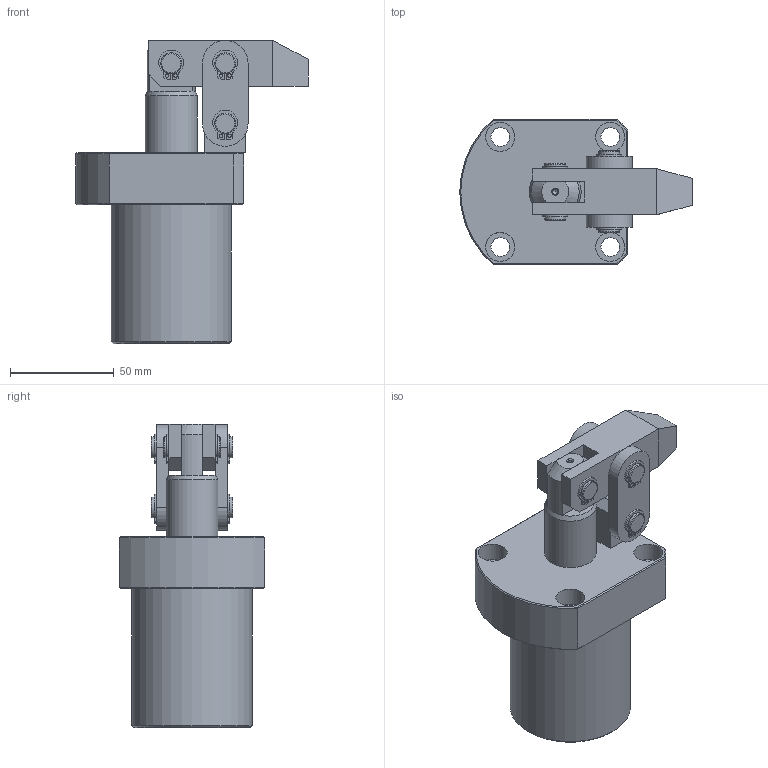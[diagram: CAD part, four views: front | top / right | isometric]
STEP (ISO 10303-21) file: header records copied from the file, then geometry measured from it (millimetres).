
FILE_DESCRIPTION(/* description */ ('Unknown'),/* implementation_level */ '2;1');
FILE_NAME(/* name */ 'HLB-FAM40-A',/* time_stamp */ '2025-05-13T02:31:00+08:00',/* author */ ('Unknown'),/* organization */ ('Unknown'),/* preprocessor_version */ 'ST-DEVELOPER v16.7',/* originating_system */ 'DEX',/* authorisation */ $);
FILE_SCHEMA (('AUTOMOTIVE_DESIGN {1 0 10303 214 3 1 1}'));
Length unit declared in the file: millimetre
Products named in the file (8): HLB-FAM40-A; HLB-FAM40-CYLINDER; HLB-40-墊; HLB-40-A; HLB-4002-AXLE CENTRE; HLB-40-PINªø-; HLB-40-PINµu; HLB-40-C¦©›
Assembly tree (14 placements, depth 2):
  HLB-FAM40-A
    HLB-FAM40-CYLINDER
    HLB-40-墊  x2
    HLB-40-A
    HLB-4002-AXLE CENTRE
    HLB-40-PINªø-  x2
    HLB-40-PINµu
    HLB-40-C¦©›  x6
Bounding box: 112 x 70 x 146.2 mm (x, y, z)
Volume: 334908.7 mm3; surface area: 74458.8 mm2
Topology: 14 solids, 14 shells, 254 faces, 576 edges, 377 vertices
Faces by surface type: plane 117, cylinder 113, cone 16, torus 8
Full cylindrical faces by diameter (mm): 1.7 x12, 2.496 x1, 3 x2, 4.1 x2, 9 x4, 9.5 x6, 10 x18, 12 x2, 14 x4, 25 x2, 40 x2, 58 x1
Entity records: 4090 total; most frequent: DIRECTION 711, CARTESIAN_POINT 678, ORIENTED_EDGE 520, AXIS2_PLACEMENT_3D 299, EDGE_CURVE 260, FACE_BOUND 256, EDGE_LOOP 255, VERTEX_POINT 198
